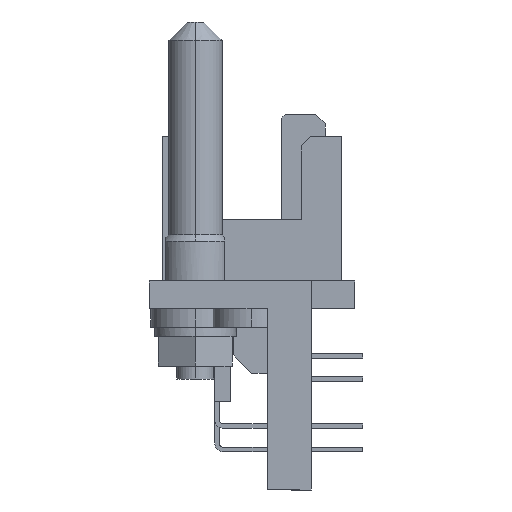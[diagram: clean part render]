
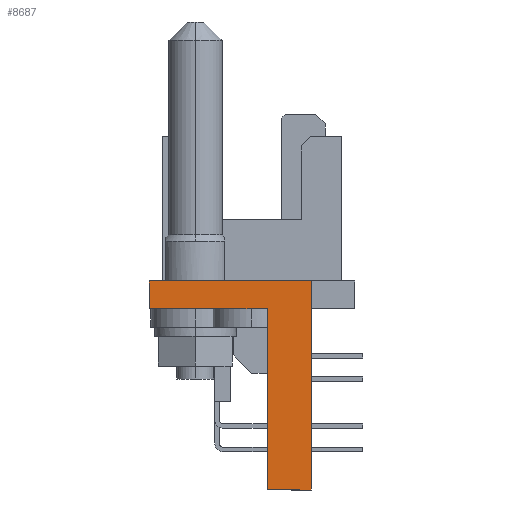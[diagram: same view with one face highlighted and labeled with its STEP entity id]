
A CAD part, left-side view. The second image highlights one B-rep face of the part: STEP entity #8687.
In plain terms, the highlighted planar face has unit normal (-1, 0, 0).
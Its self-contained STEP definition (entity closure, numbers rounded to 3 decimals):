
#747 = LINE ( 'NONE', #7697, #7003 ) ;
#969 = CARTESIAN_POINT ( 'NONE',  ( -25.825, 5.893, -10.5 ) ) ;
#1544 = CARTESIAN_POINT ( 'NONE',  ( -25.825, 11.13, -10.5 ) ) ;
#2325 = CARTESIAN_POINT ( 'NONE',  ( -25.825, 4.75, -10.5 ) ) ;
#3159 = ORIENTED_EDGE ( 'NONE', *, *, #29570, .F. ) ;
#3702 = CARTESIAN_POINT ( 'NONE',  ( -25.825, 4.75, -20.3 ) ) ;
#4654 = VERTEX_POINT ( 'NONE', #8083 ) ;
#4868 = VERTEX_POINT ( 'NONE', #969 ) ;
#4966 = CARTESIAN_POINT ( 'NONE',  ( -25.825, 2.37, -9. ) ) ;
#5506 = VECTOR ( 'NONE', #30874, 1000. ) ;
#5682 = VERTEX_POINT ( 'NONE', #19550 ) ;
#5881 = VECTOR ( 'NONE', #10847, 1000. ) ;
#6698 = CARTESIAN_POINT ( 'NONE',  ( -25.825, 4.75, -20.3 ) ) ;
#7003 = VECTOR ( 'NONE', #29182, 1000. ) ;
#7046 = EDGE_LOOP ( 'NONE', ( #14662, #22014, #15859, #21587, #31879, #26962, #12560, #3159 ) ) ;
#7329 = EDGE_CURVE ( 'NONE', #5682, #11478, #11803, .T. ) ;
#7697 = CARTESIAN_POINT ( 'NONE',  ( -25.825, 4.75, -10.5 ) ) ;
#8083 = CARTESIAN_POINT ( 'NONE',  ( -25.825, 5.247, -10.5 ) ) ;
#8687 = ADVANCED_FACE ( 'NONE', ( #24754 ), #16942, .T. ) ;
#9513 = DIRECTION ( 'NONE',  ( 0., 1., 0. ) ) ;
#10297 = VERTEX_POINT ( 'NONE', #2325 ) ;
#10847 = DIRECTION ( 'NONE',  ( 0., 0., 1. ) ) ;
#11302 = EDGE_CURVE ( 'NONE', #4654, #4868, #28324, .T. ) ;
#11478 = VERTEX_POINT ( 'NONE', #4966 ) ;
#11803 = LINE ( 'NONE', #26856, #17258 ) ;
#12560 = ORIENTED_EDGE ( 'NONE', *, *, #33344, .F. ) ;
#13116 = CARTESIAN_POINT ( 'NONE',  ( -25.825, 2.37, -10.5 ) ) ;
#13159 = EDGE_CURVE ( 'NONE', #25986, #10297, #13482, .T. ) ;
#13196 = VECTOR ( 'NONE', #9513, 1000. ) ;
#13482 = LINE ( 'NONE', #6698, #5506 ) ;
#14161 = LINE ( 'NONE', #13116, #27590 ) ;
#14374 = DIRECTION ( 'NONE',  ( -1., 0., 0. ) ) ;
#14662 = ORIENTED_EDGE ( 'NONE', *, *, #7329, .F. ) ;
#15749 = VECTOR ( 'NONE', #16597, 1000. ) ;
#15859 = ORIENTED_EDGE ( 'NONE', *, *, #29566, .F. ) ;
#16340 = CARTESIAN_POINT ( 'NONE',  ( -25.825, 2.37, -20.3 ) ) ;
#16597 = DIRECTION ( 'NONE',  ( 0., 1., 0. ) ) ;
#16942 = PLANE ( 'NONE',  #21268 ) ;
#17258 = VECTOR ( 'NONE', #24283, 1000. ) ;
#19550 = CARTESIAN_POINT ( 'NONE',  ( -25.825, 11.13, -9. ) ) ;
#21019 = EDGE_CURVE ( 'NONE', #10297, #4654, #21209, .T. ) ;
#21209 = LINE ( 'NONE', #32662, #15749 ) ;
#21268 = AXIS2_PLACEMENT_3D ( 'NONE', #30449, #14374, #33111 ) ;
#21587 = ORIENTED_EDGE ( 'NONE', *, *, #11302, .F. ) ;
#21814 = LINE ( 'NONE', #16340, #28087 ) ;
#22014 = ORIENTED_EDGE ( 'NONE', *, *, #24587, .F. ) ;
#24283 = DIRECTION ( 'NONE',  ( 0., -1., 0. ) ) ;
#24587 = EDGE_CURVE ( 'NONE', #29426, #5682, #34382, .T. ) ;
#24754 = FACE_OUTER_BOUND ( 'NONE', #7046, .T. ) ;
#25188 = CARTESIAN_POINT ( 'NONE',  ( -25.825, 2.37, -20.3 ) ) ;
#25986 = VERTEX_POINT ( 'NONE', #3702 ) ;
#26856 = CARTESIAN_POINT ( 'NONE',  ( -25.825, 0.715, -9. ) ) ;
#26962 = ORIENTED_EDGE ( 'NONE', *, *, #13159, .F. ) ;
#27590 = VECTOR ( 'NONE', #34560, 1000. ) ;
#28087 = VECTOR ( 'NONE', #32285, 1000. ) ;
#28324 = LINE ( 'NONE', #33563, #13196 ) ;
#29182 = DIRECTION ( 'NONE',  ( 0., 1., 0. ) ) ;
#29426 = VERTEX_POINT ( 'NONE', #1544 ) ;
#29566 = EDGE_CURVE ( 'NONE', #4868, #29426, #747, .T. ) ;
#29570 = EDGE_CURVE ( 'NONE', #11478, #34800, #14161, .T. ) ;
#29641 = CARTESIAN_POINT ( 'NONE',  ( -25.825, 11.13, -10.5 ) ) ;
#30449 = CARTESIAN_POINT ( 'NONE',  ( -25.825, 0.715, -1.2 ) ) ;
#30874 = DIRECTION ( 'NONE',  ( 0., 0., 1. ) ) ;
#31879 = ORIENTED_EDGE ( 'NONE', *, *, #21019, .F. ) ;
#32285 = DIRECTION ( 'NONE',  ( 0., 1., 0. ) ) ;
#32662 = CARTESIAN_POINT ( 'NONE',  ( -25.825, 4.75, -10.5 ) ) ;
#33111 = DIRECTION ( 'NONE',  ( 0., 0., -1. ) ) ;
#33344 = EDGE_CURVE ( 'NONE', #34800, #25986, #21814, .T. ) ;
#33563 = CARTESIAN_POINT ( 'NONE',  ( -25.825, 4.75, -10.5 ) ) ;
#34382 = LINE ( 'NONE', #29641, #5881 ) ;
#34560 = DIRECTION ( 'NONE',  ( 0., 0., -1. ) ) ;
#34800 = VERTEX_POINT ( 'NONE', #25188 ) ;
